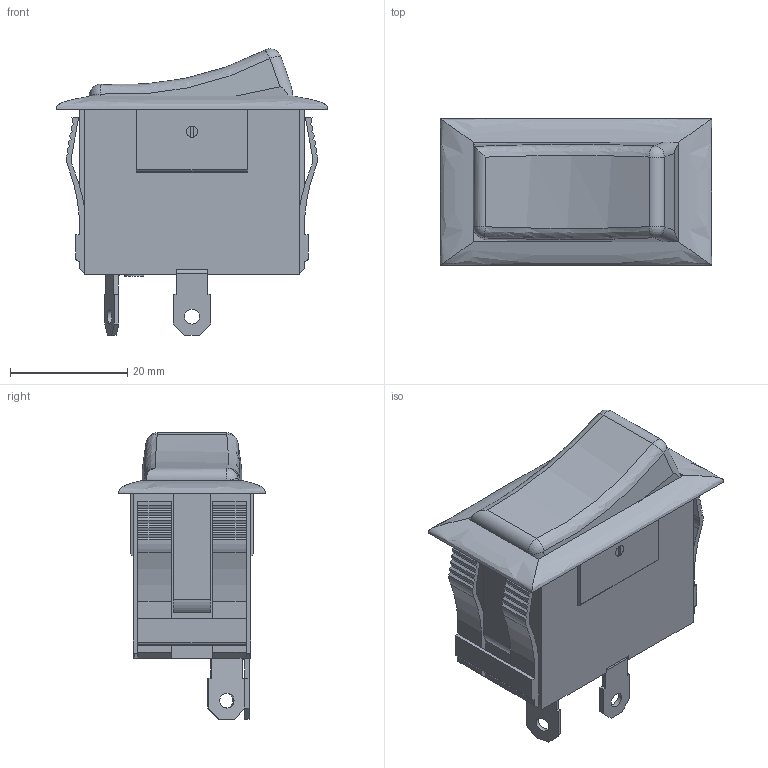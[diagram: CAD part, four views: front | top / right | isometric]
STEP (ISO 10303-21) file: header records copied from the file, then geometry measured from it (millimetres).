
FILE_DESCRIPTION(/* description */ (''),/* implementation_level */ '2;1');
FILE_NAME(/* name */ 'C:\Users\Hani\Desktop\work\SRB1-1B-DC-1-NN\SRB1-1B-DC-1-NN Rocker Switch.stp',/* time_stamp */ '2020-09-24T18:29:08-07:00',/* author */ ('Hani'),/* organization */ (''),/* preprocessor_version */ 'ST-DEVELOPER v17',/* originating_system */ 'Autodesk Inventor 2019',/* authorisation */ '');
FILE_SCHEMA (('AUTOMOTIVE_DESIGN { 1 0 10303 214 3 1 1 }'));
Length unit declared in the file: inch
Products named in the file (6): SRB1-1B-DC-1-NN Rocker Switch; ROCKER SWITCH; terminal_MIR2; rivet; botton1; pin
Assembly tree (7 placements, depth 2):
  SRB1-1B-DC-1-NN Rocker Switch
    ROCKER SWITCH
    terminal_MIR2  x2
    rivet  x2
    botton1
    pin
Bounding box: 46.3 x 24.99 x 48.81 mm (x, y, z)
Volume: 27487.2 mm3; surface area: 9955.5 mm2
Topology: 7 solids, 7 shells, 253 faces, 694 edges, 454 vertices
Faces by surface type: plane 202, cylinder 42, bspline 6, sphere 3
Full cylindrical faces by diameter (mm): 1.905 x2, 2.489 x2, 2.54 x4, 3.251 x2
Entity records: 7637 total; most frequent: CARTESIAN_POINT 1424, ORIENTED_EDGE 1272, DIRECTION 1198, EDGE_CURVE 636, LINE 538, VECTOR 538, VERTEX_POINT 414, AXIS2_PLACEMENT_3D 330
